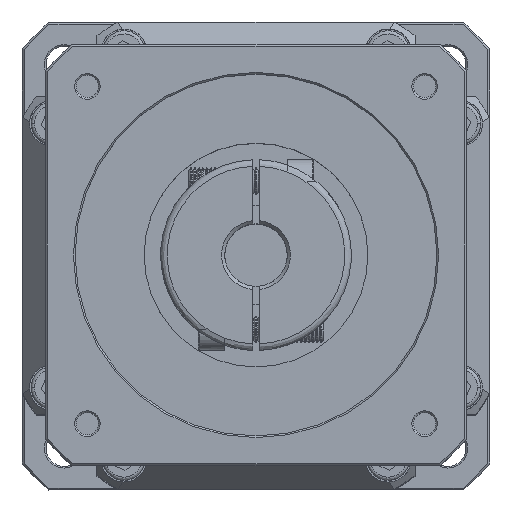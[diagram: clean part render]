
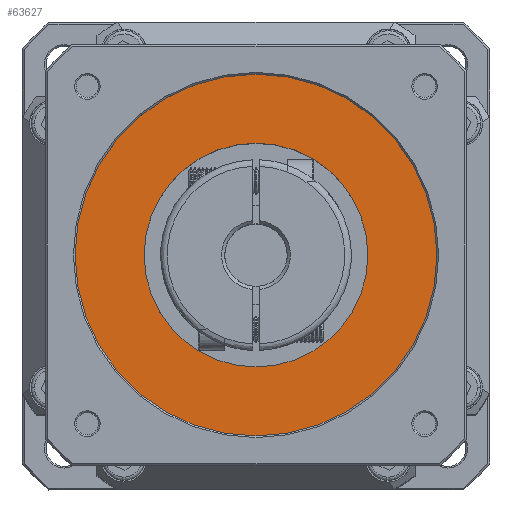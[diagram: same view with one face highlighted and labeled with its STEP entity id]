
A CAD part, top view. The second image highlights one B-rep face of the part: STEP entity #63627.
In plain terms, the highlighted planar face has unit normal (0, 0, -1).
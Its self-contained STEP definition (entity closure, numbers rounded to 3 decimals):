
#259 = DIRECTION ( 'NONE',  ( 1., 0., 0. ) ) ;
#6911 = EDGE_CURVE ( 'NONE', #97072, #61333, #54376, .T. ) ;
#11734 = CIRCLE ( 'NONE', #17336, 34. ) ;
#16704 = CIRCLE ( 'NONE', #34033, 55. ) ;
#16784 = CARTESIAN_POINT ( 'NONE',  ( -55.66, -55.66, 239.5 ) ) ;
#16859 = CARTESIAN_POINT ( 'NONE',  ( 55., 0., 239.5 ) ) ;
#17336 = AXIS2_PLACEMENT_3D ( 'NONE', #80989, #31775, #89275 ) ;
#24653 = PLANE ( 'NONE',  #34446 ) ;
#24987 = DIRECTION ( 'NONE',  ( 1., 0., 0. ) ) ;
#27175 = DIRECTION ( 'NONE',  ( 0., 0., -1. ) ) ;
#30196 = DIRECTION ( 'NONE',  ( 0., 0., 1. ) ) ;
#30409 = EDGE_CURVE ( 'NONE', #61333, #97072, #16704, .T. ) ;
#31775 = DIRECTION ( 'NONE',  ( 0., 0., 1. ) ) ;
#32136 = FACE_BOUND ( 'NONE', #83676, .T. ) ;
#32634 = VERTEX_POINT ( 'NONE', #98349 ) ;
#34033 = AXIS2_PLACEMENT_3D ( 'NONE', #98568, #49273, #259 ) ;
#34413 = VERTEX_POINT ( 'NONE', #74167 ) ;
#34446 = AXIS2_PLACEMENT_3D ( 'NONE', #16784, #74124, #24987 ) ;
#44206 = AXIS2_PLACEMENT_3D ( 'NONE', #79390, #30196, #87703 ) ;
#49273 = DIRECTION ( 'NONE',  ( 0., 0., -1. ) ) ;
#50673 = AXIS2_PLACEMENT_3D ( 'NONE', #76309, #27175, #84644 ) ;
#54376 = CIRCLE ( 'NONE', #50673, 55. ) ;
#54513 = ORIENTED_EDGE ( 'NONE', *, *, #64503, .T. ) ;
#61333 = VERTEX_POINT ( 'NONE', #16859 ) ;
#63627 = ADVANCED_FACE ( 'NONE', ( #32136, #95212 ), #24653, .F. ) ;
#64503 = EDGE_CURVE ( 'NONE', #32634, #34413, #11734, .T. ) ;
#73575 = CARTESIAN_POINT ( 'NONE',  ( -55., 0., 239.5 ) ) ;
#74124 = DIRECTION ( 'NONE',  ( 0., 0., 1. ) ) ;
#74167 = CARTESIAN_POINT ( 'NONE',  ( 34., 0., 239.5 ) ) ;
#76258 = EDGE_CURVE ( 'NONE', #34413, #32634, #80310, .T. ) ;
#76309 = CARTESIAN_POINT ( 'NONE',  ( 0., 0., 239.5 ) ) ;
#79390 = CARTESIAN_POINT ( 'NONE',  ( 0., 0., 239.5 ) ) ;
#80310 = CIRCLE ( 'NONE', #44206, 34. ) ;
#80552 = ORIENTED_EDGE ( 'NONE', *, *, #6911, .T. ) ;
#80989 = CARTESIAN_POINT ( 'NONE',  ( 0., 0., 239.5 ) ) ;
#83676 = EDGE_LOOP ( 'NONE', ( #54513, #100519 ) ) ;
#84644 = DIRECTION ( 'NONE',  ( 1., 0., 0. ) ) ;
#87703 = DIRECTION ( 'NONE',  ( -1., 0., 0. ) ) ;
#89275 = DIRECTION ( 'NONE',  ( -1., 0., 0. ) ) ;
#94184 = EDGE_LOOP ( 'NONE', ( #96412, #80552 ) ) ;
#95212 = FACE_OUTER_BOUND ( 'NONE', #94184, .T. ) ;
#96412 = ORIENTED_EDGE ( 'NONE', *, *, #30409, .T. ) ;
#97072 = VERTEX_POINT ( 'NONE', #73575 ) ;
#98349 = CARTESIAN_POINT ( 'NONE',  ( -34., 0., 239.5 ) ) ;
#98568 = CARTESIAN_POINT ( 'NONE',  ( 0., 0., 239.5 ) ) ;
#100519 = ORIENTED_EDGE ( 'NONE', *, *, #76258, .T. ) ;
